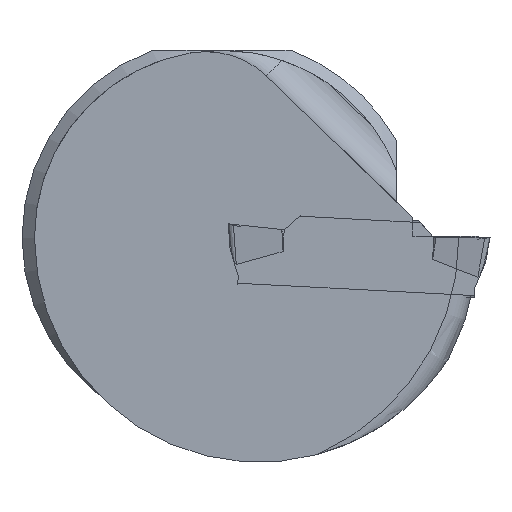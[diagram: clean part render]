
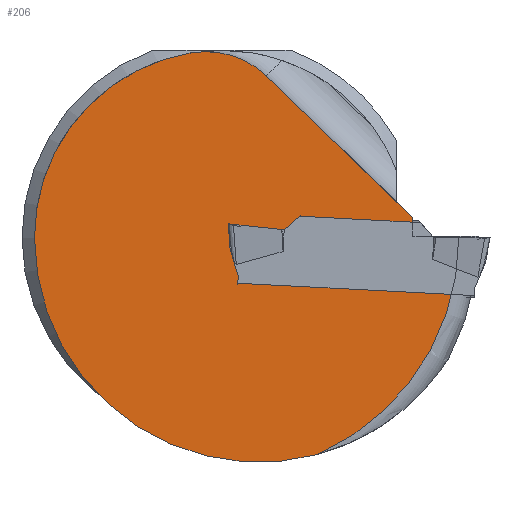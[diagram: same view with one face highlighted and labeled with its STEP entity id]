
A CAD part, left-side view. The second image highlights one B-rep face of the part: STEP entity #206.
In plain terms, the highlighted planar face has unit normal (-1, 0, 0).
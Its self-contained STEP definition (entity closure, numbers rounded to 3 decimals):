
#88=PLANE('',#1433);
#106=CIRCLE('',#1425,19.);
#109=CIRCLE('',#1430,15.);
#110=CIRCLE('',#1431,18.);
#111=CIRCLE('',#1432,7.);
#206=ADVANCED_FACE('',(#292),#88,.T.);
#292=FACE_OUTER_BOUND('',#359,.T.);
#359=EDGE_LOOP('',(#900,#901,#902,#903,#904,#905,#906));
#489=LINE('',#2197,#610);
#490=LINE('',#2199,#611);
#491=LINE('',#2201,#612);
#610=VECTOR('',#1738,1.);
#611=VECTOR('',#1739,1.);
#612=VECTOR('',#1740,1.);
#900=ORIENTED_EDGE('',*,*,#1279,.F.);
#901=ORIENTED_EDGE('',*,*,#1280,.T.);
#902=ORIENTED_EDGE('',*,*,#1271,.T.);
#903=ORIENTED_EDGE('',*,*,#1281,.T.);
#904=ORIENTED_EDGE('',*,*,#1282,.F.);
#905=ORIENTED_EDGE('',*,*,#1283,.F.);
#906=ORIENTED_EDGE('',*,*,#1284,.F.);
#1099=VERTEX_POINT('',#2151);
#1100=VERTEX_POINT('',#2153);
#1106=VERTEX_POINT('',#2194);
#1107=VERTEX_POINT('',#2195);
#1108=VERTEX_POINT('',#2198);
#1109=VERTEX_POINT('',#2200);
#1110=VERTEX_POINT('',#2202);
#1271=EDGE_CURVE('',#1100,#1099,#106,.T.);
#1279=EDGE_CURVE('',#1106,#1107,#109,.T.);
#1280=EDGE_CURVE('',#1106,#1100,#110,.T.);
#1281=EDGE_CURVE('',#1099,#1108,#489,.T.);
#1282=EDGE_CURVE('',#1109,#1108,#490,.T.);
#1283=EDGE_CURVE('',#1110,#1109,#491,.T.);
#1284=EDGE_CURVE('',#1107,#1110,#111,.T.);
#1425=AXIS2_PLACEMENT_3D('',#2152,#1720,#1721);
#1430=AXIS2_PLACEMENT_3D('',#2193,#1734,#1735);
#1431=AXIS2_PLACEMENT_3D('',#2196,#1736,#1737);
#1432=AXIS2_PLACEMENT_3D('',#2203,#1741,#1742);
#1433=AXIS2_PLACEMENT_3D('',#2204,#1743,#1744);
#1720=DIRECTION('',(-1.,0.,0.));
#1721=DIRECTION('',(0.,-1.,0.));
#1734=DIRECTION('',(1.,0.,0.));
#1735=DIRECTION('',(0.,-1.,0.));
#1736=DIRECTION('',(-1.,0.,0.));
#1737=DIRECTION('',(0.,-1.,0.));
#1738=DIRECTION('',(0.,1.,0.));
#1739=DIRECTION('',(0.,0.,-1.));
#1740=DIRECTION('',(0.,-0.719,-0.695));
#1741=DIRECTION('',(1.,0.,0.));
#1742=DIRECTION('',(0.,-1.,0.));
#1743=DIRECTION('',(-1.,0.,0.));
#1744=DIRECTION('',(0.,-1.,0.));
#2151=CARTESIAN_POINT('',(0.4,2.5,0.107));
#2152=CARTESIAN_POINT('',(0.4,21.5,0.));
#2153=CARTESIAN_POINT('',(0.4,13.833,-17.385));
#2193=CARTESIAN_POINT('',(0.4,21.5,0.));
#2194=CARTESIAN_POINT('',(0.4,36.5,0.));
#2195=CARTESIAN_POINT('',(0.4,23.875,14.811));
#2196=CARTESIAN_POINT('',(0.4,18.5,0.));
#2197=CARTESIAN_POINT('',(0.4,0.9,0.107));
#2198=CARTESIAN_POINT('',(0.4,6.174,0.107));
#2199=CARTESIAN_POINT('',(0.4,6.174,0.));
#2200=CARTESIAN_POINT('',(0.4,6.174,1.607));
#2201=CARTESIAN_POINT('',(0.4,2.642,-1.804));
#2202=CARTESIAN_POINT('',(0.4,17.904,12.934));
#2203=CARTESIAN_POINT('',(0.4,22.767,7.899));
#2204=CARTESIAN_POINT('',(0.4,0.9,0.));
